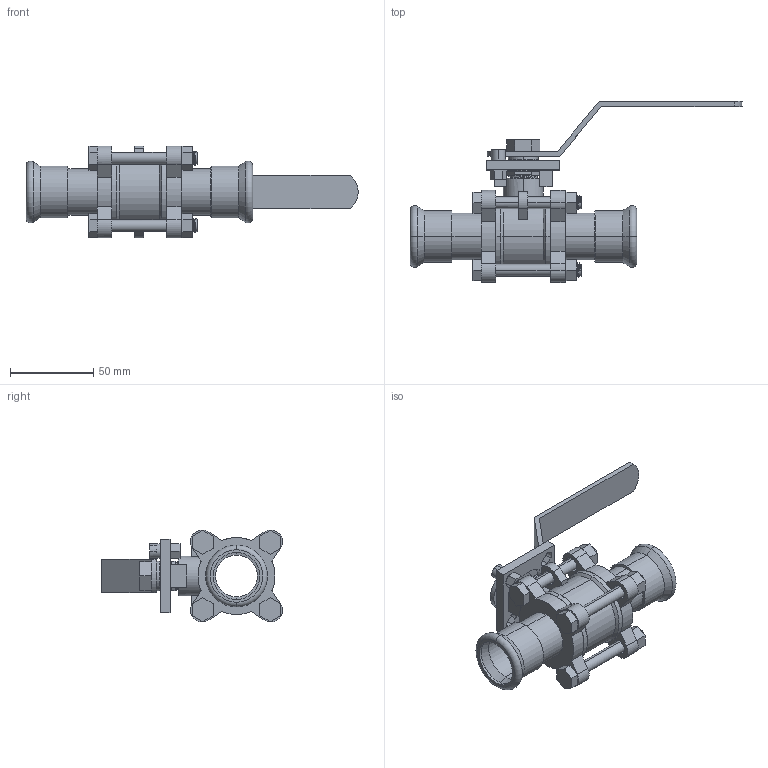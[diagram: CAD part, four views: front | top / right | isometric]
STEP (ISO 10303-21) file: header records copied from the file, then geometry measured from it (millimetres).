
FILE_DESCRIPTION (( 'STEP AP214' ), '1' );
FILE_NAME ('V2800PM.STEP', '2025-08-17T06:46:45', ( '' ), ( '' ), 'SwSTEP 2.0', 'SolidWorks 2020', '' );
FILE_SCHEMA (( 'AUTOMOTIVE_DESIGN' ));
Length unit declared in the file: millimetre
Products named in the file (1): V2800PM
Bounding box: 199.85 x 108.93 x 55.38 mm (x, y, z)
Volume: 118181.2 mm3; surface area: 72189.3 mm2
Topology: 3 solids, 3 shells, 510 faces, 1330 edges, 855 vertices
Faces by surface type: cylinder 251, plane 204, bspline 27, cone 20, torus 8
Entity records: 30828 total; most frequent: CARTESIAN_POINT 13243, ORIENTED_EDGE 2660, DIRECTION 2325, EDGE_CURVE 1330, VERTEX_POINT 855, AXIS2_PLACEMENT_3D 831, LINE 663, VECTOR 663
